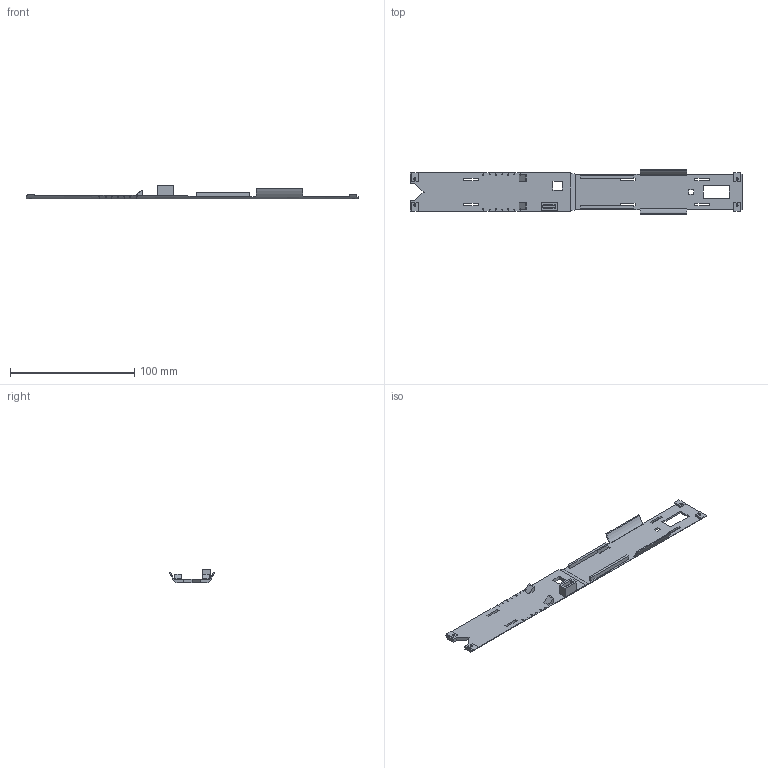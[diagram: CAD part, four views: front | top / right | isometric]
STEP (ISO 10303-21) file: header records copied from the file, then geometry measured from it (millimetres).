
FILE_DESCRIPTION(('SkyG Speed 90B - revision C6B-5 - 2026-10-08','TR-equipment-tray'),'2;1');
FILE_NAME('TR-equipment-tray_C6B-5','2026-10-08T10:12:28',('Author'),( 'Open CASCADE'),'Open CASCADE STEP processor 7.9','Open CASCADE 7.9' ,'Unknown');
FILE_SCHEMA(('AUTOMOTIVE_DESIGN { 1 0 10303 214 1 1 1 1 }'));
Length unit declared in the file: millimetre
Products named in the file (1): TR-equipment-tray C6B-5
Bounding box: 267 x 36.14 x 11.1 mm (x, y, z)
Volume: 17276.8 mm3; surface area: 18666.2 mm2
Topology: 1 solids, 1 shells, 167 faces, 501 edges, 334 vertices
Faces by surface type: plane 159, cylinder 8
Full cylindrical faces by diameter (mm): 1.6 x4
Entity records: 12140 total; most frequent: CARTESIAN_POINT 3147, DIRECTION 1325, ORIENTED_EDGE 1002, PCURVE 1002, DEFINITIONAL_REPRESENTATION 1002, LINE 805, VECTOR 805, B_SPLINE_CURVE_WITH_KNOTS 574
